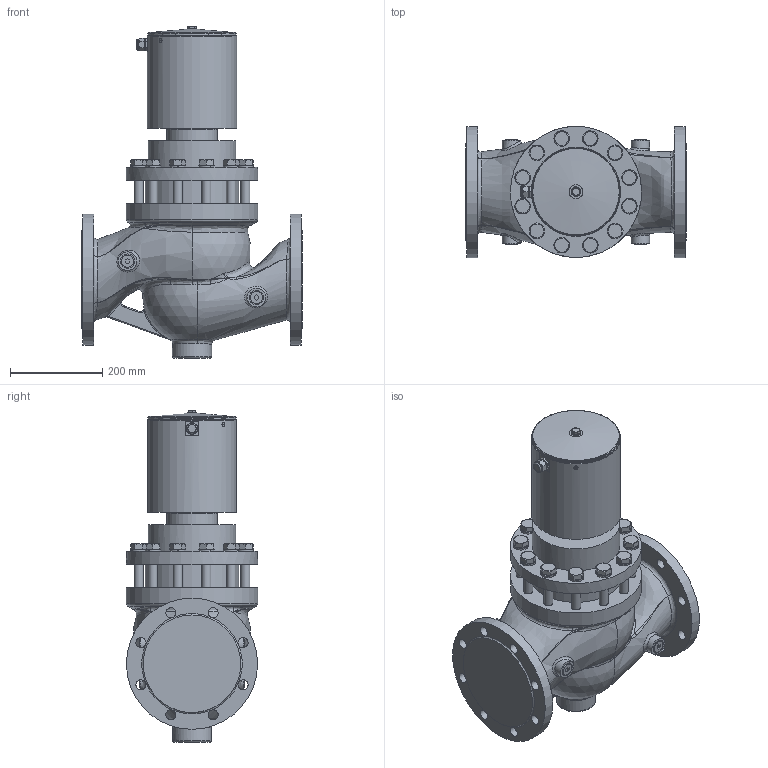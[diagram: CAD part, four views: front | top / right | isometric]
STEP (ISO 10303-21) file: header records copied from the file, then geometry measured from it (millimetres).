
FILE_DESCRIPTION((''),'2;1');
FILE_NAME('G:\CAD-Download\EVSA\4und10-EVSA\DN 150\4_10-EVSA 150H-4.Av.00.32.stp','2010-05-19T09:14:55',('hb'),(''),'Autodesk Inventor 2008','Autodesk Inventor 2008','');
FILE_SCHEMA(('AUTOMOTIVE_DESIGN { 1 0 10303 214 1 1 1 1 }'));
Length unit declared in the file: millimetre
Products named in the file (1): Bauteil4
Bounding box: 480 x 285 x 721.4 mm (x, y, z)
Volume: 33190824.8 mm3; surface area: 1144507.9 mm2
Topology: 1 solids, 1 shells, 575 faces, 1402 edges, 862 vertices
Faces by surface type: plane 259, bspline 121, cylinder 99, cone 86, torus 8, sphere 2
Full cylindrical faces by diameter (mm): 14.63 x1, 20 x25, 22 x8, 23.713 x1, 26 x4, 28.19 x12, 31 x2, 40 x2, 85 x1, 93 x1, 111 x1, 186.5 x1, 187.898 x1, 189 x2, 189.5 x1, 190 x1, 193.7 x1, 204 x1, 285 x3
Entity records: 35288 total; most frequent: CARTESIAN_POINT 22892, ORIENTED_EDGE 2408, DIRECTION 2302, EDGE_CURVE 1204, AXIS2_PLACEMENT_3D 961, EDGE_LOOP 815, VERTEX_POINT 789, FACE_OUTER_BOUND 575
